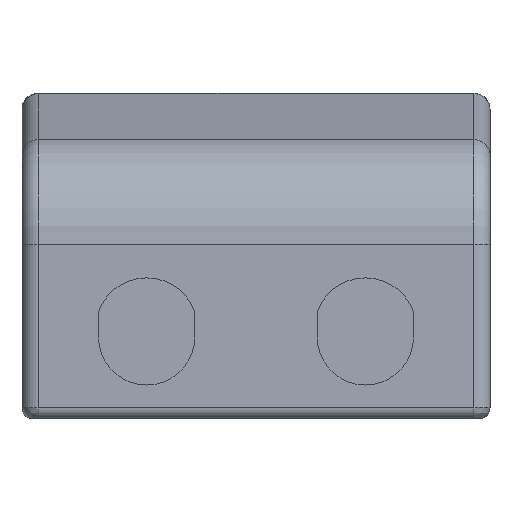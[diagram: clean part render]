
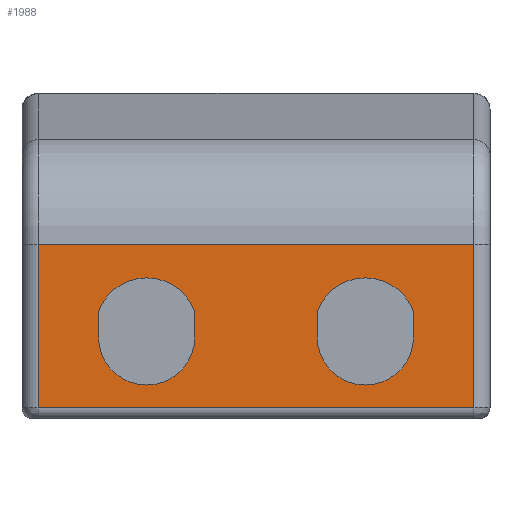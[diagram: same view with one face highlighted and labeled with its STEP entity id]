
A CAD part, front view. The second image highlights one B-rep face of the part: STEP entity #1988.
In plain terms, the highlighted planar face has unit normal (0, -1, 0) as drawn and (0, 0, 1) by its records, which use the part's own axes.
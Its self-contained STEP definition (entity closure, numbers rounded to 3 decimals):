
#435=CARTESIAN_POINT('',(-10.,8.2,30.));
#436=DIRECTION('',(0.,0.,1.));
#437=DIRECTION('',(0.936,0.352,0.));
#438=AXIS2_PLACEMENT_3D('',#435,#436,#437);
#440=DIRECTION('',(0.,-1.,0.));
#441=VECTOR('',#440,2.352);
#442=CARTESIAN_POINT('',(-14.4,9.852,30.));
#443=LINE('',#442,#441);
#444=CARTESIAN_POINT('',(-10.,7.5,30.));
#445=DIRECTION('',(0.,0.,1.));
#446=DIRECTION('',(-1.,0.,0.));
#447=AXIS2_PLACEMENT_3D('',#444,#445,#446);
#449=DIRECTION('',(0.,1.,0.));
#450=VECTOR('',#449,2.352);
#451=CARTESIAN_POINT('',(-5.6,7.5,30.));
#452=LINE('',#451,#450);
#453=CARTESIAN_POINT('',(10.,8.2,30.));
#454=DIRECTION('',(0.,0.,1.));
#455=DIRECTION('',(0.936,0.352,0.));
#456=AXIS2_PLACEMENT_3D('',#453,#454,#455);
#458=DIRECTION('',(0.,-1.,0.));
#459=VECTOR('',#458,2.352);
#460=CARTESIAN_POINT('',(5.6,9.852,30.));
#461=LINE('',#460,#459);
#462=CARTESIAN_POINT('',(10.,7.5,30.));
#463=DIRECTION('',(0.,0.,1.));
#464=DIRECTION('',(-1.,0.,0.));
#465=AXIS2_PLACEMENT_3D('',#462,#463,#464);
#467=DIRECTION('',(0.,1.,0.));
#468=VECTOR('',#467,2.352);
#469=CARTESIAN_POINT('',(14.4,7.5,30.));
#470=LINE('',#469,#468);
#471=DIRECTION('',(1.,0.,0.));
#472=VECTOR('',#471,39.8);
#473=CARTESIAN_POINT('',(-19.9,1.,30.));
#474=LINE('',#473,#472);
#475=DIRECTION('',(0.,1.,0.));
#476=VECTOR('',#475,14.957);
#477=CARTESIAN_POINT('',(-19.9,1.,30.));
#478=LINE('',#477,#476);
#479=DIRECTION('',(1.,0.,0.));
#480=VECTOR('',#479,39.8);
#481=CARTESIAN_POINT('',(-19.9,15.957,30.));
#482=LINE('',#481,#480);
#483=DIRECTION('',(0.,-1.,0.));
#484=VECTOR('',#483,14.957);
#485=CARTESIAN_POINT('',(19.9,15.957,30.));
#486=LINE('',#485,#484);
#1284=CARTESIAN_POINT('',(-5.6,9.852,30.));
#1285=CARTESIAN_POINT('',(-14.4,9.852,30.));
#1286=VERTEX_POINT('',#1284);
#1287=VERTEX_POINT('',#1285);
#1288=CARTESIAN_POINT('',(-14.4,7.5,30.));
#1289=VERTEX_POINT('',#1288);
#1290=CARTESIAN_POINT('',(-5.6,7.5,30.));
#1291=VERTEX_POINT('',#1290);
#1292=CARTESIAN_POINT('',(14.4,9.852,30.));
#1293=CARTESIAN_POINT('',(5.6,9.852,30.));
#1294=VERTEX_POINT('',#1292);
#1295=VERTEX_POINT('',#1293);
#1296=CARTESIAN_POINT('',(5.6,7.5,30.));
#1297=VERTEX_POINT('',#1296);
#1298=CARTESIAN_POINT('',(14.4,7.5,30.));
#1299=VERTEX_POINT('',#1298);
#1351=CARTESIAN_POINT('',(19.9,15.957,30.));
#1353=VERTEX_POINT('',#1351);
#1370=CARTESIAN_POINT('',(-19.9,15.957,30.));
#1372=VERTEX_POINT('',#1370);
#1430=CARTESIAN_POINT('',(19.9,1.,30.));
#1431=VERTEX_POINT('',#1430);
#1434=CARTESIAN_POINT('',(-19.9,1.,30.));
#1435=VERTEX_POINT('',#1434);
#1955=CARTESIAN_POINT('',(-21.4,15.957,30.));
#1956=DIRECTION('',(0.,0.,1.));
#1957=DIRECTION('',(0.,-1.,0.));
#1958=AXIS2_PLACEMENT_3D('',#1955,#1956,#1957);
#1959=PLANE('',#1958);
#1960=ORIENTED_EDGE('',*,*,#1946,.F.);
#1961=ORIENTED_EDGE('',*,*,#1576,.T.);
#1963=ORIENTED_EDGE('',*,*,#1962,.T.);
#1965=ORIENTED_EDGE('',*,*,#1964,.T.);
#1966=EDGE_LOOP('',(#1960,#1961,#1963,#1965));
#1967=FACE_OUTER_BOUND('',#1966,.F.);
#1969=ORIENTED_EDGE('',*,*,#1968,.T.);
#1971=ORIENTED_EDGE('',*,*,#1970,.T.);
#1973=ORIENTED_EDGE('',*,*,#1972,.T.);
#1975=ORIENTED_EDGE('',*,*,#1974,.T.);
#1976=EDGE_LOOP('',(#1969,#1971,#1973,#1975));
#1977=FACE_BOUND('',#1976,.F.);
#1979=ORIENTED_EDGE('',*,*,#1978,.T.);
#1981=ORIENTED_EDGE('',*,*,#1980,.T.);
#1983=ORIENTED_EDGE('',*,*,#1982,.T.);
#1985=ORIENTED_EDGE('',*,*,#1984,.T.);
#1986=EDGE_LOOP('',(#1979,#1981,#1983,#1985));
#1987=FACE_BOUND('',#1986,.F.);
#439=CIRCLE('',#438,4.7);
#448=CIRCLE('',#447,4.4);
#457=CIRCLE('',#456,4.7);
#466=CIRCLE('',#465,4.4);
#1576=EDGE_CURVE('',#1435,#1372,#478,.T.);
#1946=EDGE_CURVE('',#1435,#1431,#474,.T.);
#1962=EDGE_CURVE('',#1372,#1353,#482,.T.);
#1964=EDGE_CURVE('',#1353,#1431,#486,.T.);
#1968=EDGE_CURVE('',#1294,#1295,#457,.T.);
#1970=EDGE_CURVE('',#1295,#1297,#461,.T.);
#1972=EDGE_CURVE('',#1297,#1299,#466,.T.);
#1974=EDGE_CURVE('',#1299,#1294,#470,.T.);
#1978=EDGE_CURVE('',#1286,#1287,#439,.T.);
#1980=EDGE_CURVE('',#1287,#1289,#443,.T.);
#1982=EDGE_CURVE('',#1289,#1291,#448,.T.);
#1984=EDGE_CURVE('',#1291,#1286,#452,.T.);
#1988=ADVANCED_FACE('',(#1967,#1977,#1987),#1959,.T.);
